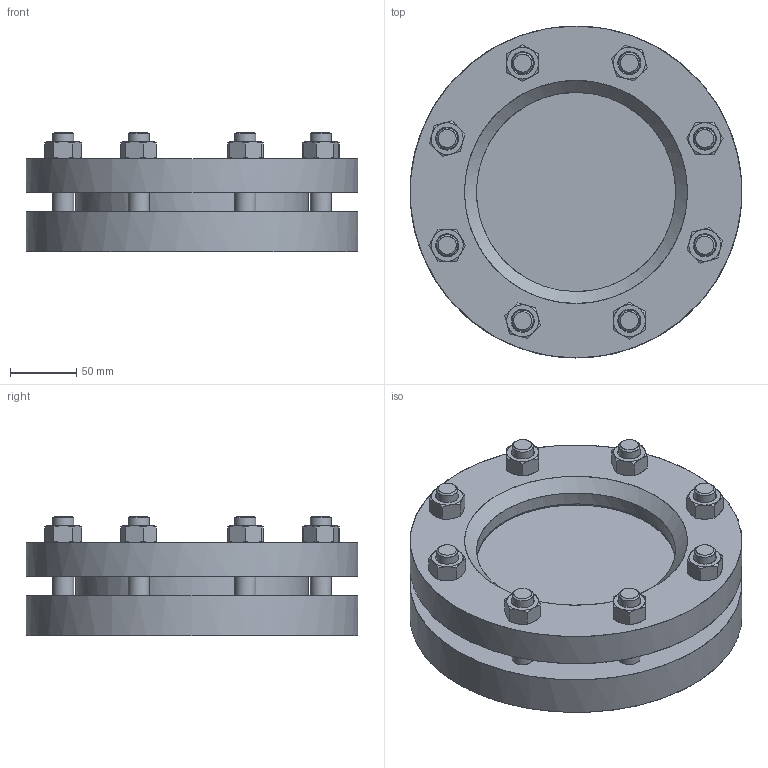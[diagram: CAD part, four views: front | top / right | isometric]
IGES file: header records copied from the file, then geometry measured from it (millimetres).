
Start section: C
Global section: file name: Armatur 28120  DN 125 PN16.igs; native system: By Siemens PLM Incorporated; preprocessor: XPlus GENERIC/IGES 18.0.17; author: Author; organization: Title; date: 20160808.072908; units: millimetre
Bounding box: 250 x 250 x 90 mm (x, y, z)
Surface area: 348031.1 mm2 (no closed solid volume)
Topology: 0 solids, 0 shells, 251 faces, 1390 edges, 1382 vertices
Faces by surface type: bspline 251
